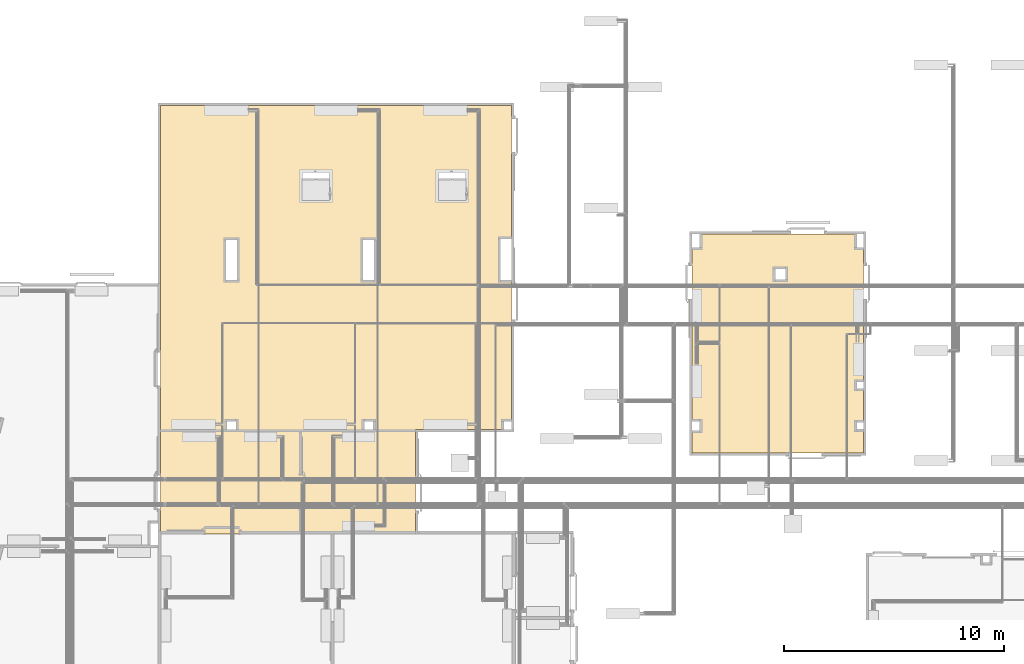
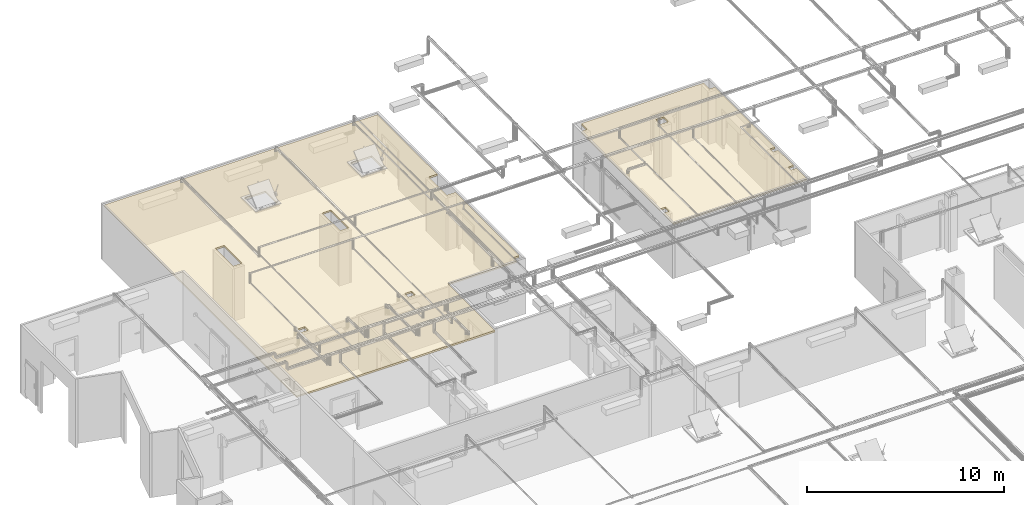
# One storey, part 50 of 652: 2 coverings.
"""IFC2X3 building model written with IfcOpenShell, lengths in millimetres."""

from ifc_helpers import new_model, entity, si_unit, converted_unit, direction, frame, origin, place, context, subcontext, project, spatial, polyline, outline, extrude, material, layer, layer_set, layer_usage, type_object, element, save


model = new_model("IFC2X3")

# Units and contexts
model_context = context("Model", 3, precision=0.01, world=frame((0.0, 0.0, 308426.39999999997)), true_north=direction((6.123233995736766e-17, 1.0)))
plan_context = context("Plan", 3, precision=0.01, world=frame((0.0, 0.0, 308426.39999999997)), true_north=direction((6.123233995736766e-17, 1.0)))
body_context = subcontext(model_context, "Body", "Model", "MODEL_VIEW")
ifc_project = project(units=[si_unit("LENGTHUNIT", "METRE", prefix="MILLI"), si_unit("AREAUNIT", "SQUARE_METRE"), si_unit("VOLUMEUNIT", "CUBIC_METRE"), converted_unit("PLANEANGLEUNIT", "DEGREE", entity("IfcPlaneAngleMeasure", 0.017453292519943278), si_unit("PLANEANGLEUNIT", "RADIAN"), dimensions=[0, 0, 0, 0, 0, 0, 0])], contexts=[model_context, plan_context])

# Site, building, storey
site_placement = place(None, origin())
site = spatial("IfcSite", under=ifc_project, at=site_placement, Name="Default", CompositionType="ELEMENT")
building_placement = place(site_placement, origin())
building = spatial("IfcBuilding", under=site, at=building_placement, CompositionType="ELEMENT")
storey_placement = place(building_placement, frame((0.0, 0.0, 1730.6999999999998)))
storey = spatial("IfcBuildingStorey", under=building, at=storey_placement, Name="EG_Produktion_FFB", CompositionType="ELEMENT", Elevation=1730.6999999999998)

# Coverings
ifc_material = material(Name="GPG_Kühlraum")
ifc_layer_1 = layer(ifc_material, 8.0)
ifc_layer_2 = layer(ifc_material, 84.0)
ifc_layer_3 = layer(ifc_material, 8.0)
ifc_layer_set = layer_set([ifc_layer_1, ifc_layer_2, ifc_layer_3], Name="Deckensystem:Kühlraum 100")
ifc_layer_usage_1 = layer_usage(ifc_layer_set, "AXIS3", "NEGATIVE", 100.0)
covering_type = type_object("IfcCoveringType", Name="Deckensystem:Kühlraum 100", PredefinedType="CEILING")
covering_1_placement = place(storey_placement, origin())
element("IfcCovering", 1, at=covering_1_placement, inside=storey, type_object=covering_type, material=ifc_layer_usage_1, Name="Deckensystem:Kühlraum 100", ObjectType="Deckensystem:Kühlraum 100", PredefinedType="CEILING", context=body_context, shape_type="SweptSolid", body=[
    extrude(outline(polyline([(-10441.04707972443, -12449.166666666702), (9061.047079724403, -12449.166666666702), (9061.0470797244, -839.1666666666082), (4301.047079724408, -839.1666666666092), (4301.047079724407, 3185.8333333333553), (3951.0470797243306, 3185.8333333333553), (3951.0470797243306, 3535.833333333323), (-2511.0470797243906, 3535.8333333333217), (-2511.0470797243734, 3030.833333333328), (-4361.0470797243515, 3030.8333333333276), (-4361.0470797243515, 3535.8333333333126), (-10441.047079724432, 3535.833333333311), (-10441.04707972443, -12449.166666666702)]), holes=[polyline([(-4311.047079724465, -2719.166666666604), (-2511.047079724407, -2719.1666666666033), (-2511.047079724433, -3219.1666666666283), (-4311.047079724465, -3219.1666666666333), (-4311.047079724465, -2719.166666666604)]), polyline([(-4311.047079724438, -8969.166666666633), (-2511.0470797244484, -8969.166666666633), (-2511.047079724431, -9469.166666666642), (-4311.047079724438, -9469.166666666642), (-4311.047079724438, -8969.166666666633)]), polyline([(3951.047079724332, -3169.1666666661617), (3951.047079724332, -2769.1666666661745), (4301.047079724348, -2769.1666666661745), (4301.047079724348, -3169.1666666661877), (3951.047079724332, -3169.1666666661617)]), polyline([(3951.0470797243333, -9419.166666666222), (3951.0470797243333, -9019.166666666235), (4301.0470797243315, -9019.16666666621), (4301.0470797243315, -9419.166666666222), (3951.0470797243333, -9419.166666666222)]), polyline([(-7409.047079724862, 1453.8333333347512), (-6163.047079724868, 1453.8333333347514), (-6163.047079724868, 207.83333333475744), (-7409.047079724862, 207.83333333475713), (-7409.047079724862, 1453.8333333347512)]), polyline([(-7409.047079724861, -6002.166666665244), (-7409.047079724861, -4756.166666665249), (-6163.047079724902, -4756.166666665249), (-6163.047079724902, -6002.166666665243), (-7409.047079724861, -6002.166666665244)])]), frame((31719.166666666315, 67638.95292027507, 3000.0), z_axis=(0.0, 0.0, 1.0), x_axis=(0.0, -1.0, 0.0)), (0.0, 0.0, 1.0), 100.0),
])
ifc_layer_usage_2 = layer_usage(ifc_layer_set, "AXIS3", "NEGATIVE", 100.0)
covering_2_placement = place(storey_placement, origin())
element("IfcCovering", 2, at=covering_2_placement, inside=storey, type_object=covering_type, material=ifc_layer_usage_2, Name="Deckensystem:Kühlraum 100", ObjectType="Deckensystem:Kühlraum 100", PredefinedType="CEILING", context=body_context, shape_type="SweptSolid", body=[
    extrude(outline(polyline([(-2844.0, -5987.0), (4316.0, -5987.0), (4316.0, -5387.0), (4666.0, -5387.0), (4666.0, 2548.0), (4316.0, 2548.0), (4316.0, 2948.0), (4666.0, 2948.0), (4666.0, 3973.0), (-3144.0, 3973.0), (-3144.0, 2898.0), (-2844.0, 2898.0), (-2844.0, 2598.0), (-3144.0, 2598.0), (-3144.0, 1048.0), (-2844.0, 1048.0), (-2844.0, 748.0), (-3144.0, 748.0), (-3144.0, -5387.0), (-2844.0, -5387.0), (-2844.0, -5987.0)]), holes=[polyline([(406.0, -4387.0), (406.0, -3927.0), (866.0, -3927.0), (866.0, -4387.0), (406.0, -4387.0)])]), frame((48136.0, 66243.0, 3000.0), z_axis=(0.0, 0.0, 1.0), x_axis=(-1.0, 0.0, 0.0)), (0.0, 0.0, 1.0), 100.0),
])

save(model, "model.ifc")
